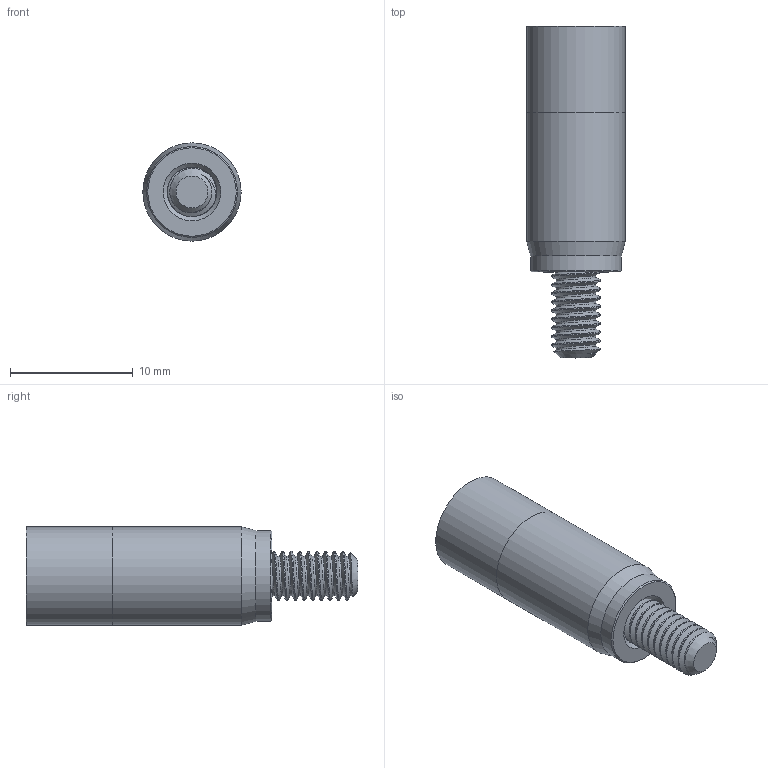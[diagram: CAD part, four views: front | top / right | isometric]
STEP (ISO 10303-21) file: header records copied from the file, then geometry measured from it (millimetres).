
FILE_DESCRIPTION (( 'STEP AP214' ), '1' );
FILE_NAME ('DAPF-8.STEP', '2018-10-09T18:08:06', ( '' ), ( '' ), 'SwSTEP 2.0', 'SolidWorks 2017', '' );
FILE_SCHEMA (( 'AUTOMOTIVE_DESIGN' ));
Length unit declared in the file: millimetre
Products named in the file (3): DAPF-8; DAP-8; Schraube-M4
Assembly tree (2 placements, depth 2):
  DAPF-8
    DAP-8
    Schraube-M4
Bounding box: 8 x 27.01 x 8 mm (x, y, z)
Volume: 984.3 mm3; surface area: 1084.8 mm2
Topology: 3 solids, 3 shells, 105 faces, 268 edges, 178 vertices
Faces by surface type: plane 53, cylinder 40, cone 6, bspline 6
Full cylindrical faces by diameter (mm): 3.3 x5, 4.6 x1, 7.4 x1, 8 x2
Entity records: 8671 total; most frequent: CARTESIAN_POINT 6305, ORIENTED_EDGE 470, DIRECTION 357, EDGE_CURVE 235, VERTEX_POINT 161, VECTOR 129, LINE 129, EDGE_LOOP 120
